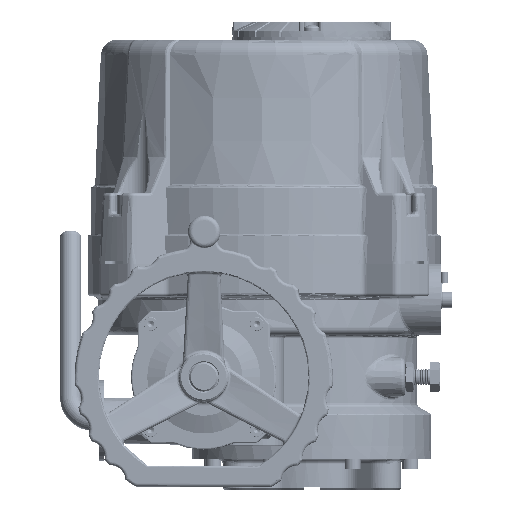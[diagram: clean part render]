
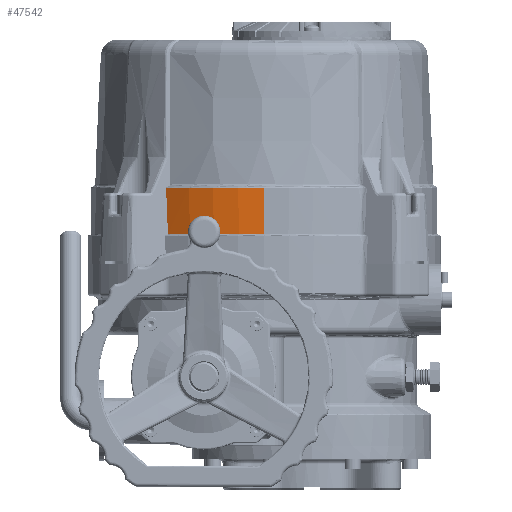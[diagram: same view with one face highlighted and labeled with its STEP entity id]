
A CAD part, front view. The second image highlights one B-rep face of the part: STEP entity #47542.
In plain terms, the highlighted cylindrical face has radius 107.5 mm (diameter 215 mm), a partial arc.
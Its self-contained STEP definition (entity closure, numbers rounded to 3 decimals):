
#47530 = PLANE('',#47531);
#47531 = AXIS2_PLACEMENT_3D('',#47532,#47533,#47534);
#47532 = CARTESIAN_POINT('',(-70.68,-203.884,
    -34.));
#47533 = DIRECTION('',(0.5,-0.865,0.044
    ));
#47534 = DIRECTION('',(0.866,0.5,0.
    ));
#47542 = ADVANCED_FACE('',(#47543),#47558,.T.);
#47543 = FACE_BOUND('',#47544,.T.);
#47544 = EDGE_LOOP('',(#47545,#47581,#47609,#47638));
#47545 = ORIENTED_EDGE('',*,*,#47546,.T.);
#47546 = EDGE_CURVE('',#47547,#47549,#47551,.T.);
#47547 = VERTEX_POINT('',#47548);
#47548 = CARTESIAN_POINT('',(-48.205,-189.976,
    -15.5));
#47549 = VERTEX_POINT('',#47550);
#47550 = CARTESIAN_POINT('',(11.447,-208.044,
    -15.5));
#47551 = SURFACE_CURVE('',#47552,(#47557,#47569),.PCURVE_S1.);
#47552 = CIRCLE('',#47553,107.5);
#47553 = AXIS2_PLACEMENT_3D('',#47554,#47555,#47556);
#47554 = CARTESIAN_POINT('',(11.447,-100.544,
    -15.5));
#47555 = DIRECTION('',(0.,0.,1.));
#47556 = DIRECTION('',(0.,1.,0.));
#47557 = PCURVE('',#47558,#47563);
#47558 = CYLINDRICAL_SURFACE('',#47559,107.5);
#47559 = AXIS2_PLACEMENT_3D('',#47560,#47561,#47562);
#47560 = CARTESIAN_POINT('',(11.447,-100.544,
    174.842));
#47561 = DIRECTION('',(0.,0.,1.));
#47562 = DIRECTION('',(0.,-1.,0.));
#47563 = DEFINITIONAL_REPRESENTATION('',(#47564),#47568);
#47564 = LINE('',#47565,#47566);
#47565 = CARTESIAN_POINT('',(3.142,-190.342));
#47566 = VECTOR('',#47567,1.);
#47567 = DIRECTION('',(1.,0.));
#47568 = ( GEOMETRIC_REPRESENTATION_CONTEXT(2) 
PARAMETRIC_REPRESENTATION_CONTEXT() REPRESENTATION_CONTEXT('2D SPACE',''
  ) );
#47569 = PCURVE('',#47570,#47575);
#47570 = TOROIDAL_SURFACE('',#47571,108.,0.5);
#47571 = AXIS2_PLACEMENT_3D('',#47572,#47573,#47574);
#47572 = CARTESIAN_POINT('',(11.447,-100.544,
    -15.5));
#47573 = DIRECTION('',(0.,0.,-1.));
#47574 = DIRECTION('',(0.,1.,0.));
#47575 = DEFINITIONAL_REPRESENTATION('',(#47576),#47580);
#47576 = LINE('',#47577,#47578);
#47577 = CARTESIAN_POINT('',(6.283,3.142));
#47578 = VECTOR('',#47579,1.);
#47579 = DIRECTION('',(-1.,0.));
#47580 = ( GEOMETRIC_REPRESENTATION_CONTEXT(2) 
PARAMETRIC_REPRESENTATION_CONTEXT() REPRESENTATION_CONTEXT('2D SPACE',''
  ) );
#47581 = ORIENTED_EDGE('',*,*,#47582,.T.);
#47582 = EDGE_CURVE('',#47549,#47583,#47585,.T.);
#47583 = VERTEX_POINT('',#47584);
#47584 = CARTESIAN_POINT('',(11.447,-208.044,
    13.));
#47585 = SURFACE_CURVE('',#47586,(#47590,#47597),.PCURVE_S1.);
#47586 = LINE('',#47587,#47588);
#47587 = CARTESIAN_POINT('',(11.447,-208.044,
    174.842));
#47588 = VECTOR('',#47589,1.);
#47589 = DIRECTION('',(0.,0.,1.));
#47590 = PCURVE('',#47558,#47591);
#47591 = DEFINITIONAL_REPRESENTATION('',(#47592),#47596);
#47592 = LINE('',#47593,#47594);
#47593 = CARTESIAN_POINT('',(6.283,0.));
#47594 = VECTOR('',#47595,1.);
#47595 = DIRECTION('',(0.,1.));
#47596 = ( GEOMETRIC_REPRESENTATION_CONTEXT(2) 
PARAMETRIC_REPRESENTATION_CONTEXT() REPRESENTATION_CONTEXT('2D SPACE',''
  ) );
#47597 = PCURVE('',#47598,#47603);
#47598 = CYLINDRICAL_SURFACE('',#47599,107.5);
#47599 = AXIS2_PLACEMENT_3D('',#47600,#47601,#47602);
#47600 = CARTESIAN_POINT('',(11.447,-100.544,
    174.842));
#47601 = DIRECTION('',(0.,0.,1.));
#47602 = DIRECTION('',(0.,-1.,0.));
#47603 = DEFINITIONAL_REPRESENTATION('',(#47604),#47608);
#47604 = LINE('',#47605,#47606);
#47605 = CARTESIAN_POINT('',(0.,0.));
#47606 = VECTOR('',#47607,1.);
#47607 = DIRECTION('',(0.,1.));
#47608 = ( GEOMETRIC_REPRESENTATION_CONTEXT(2) 
PARAMETRIC_REPRESENTATION_CONTEXT() REPRESENTATION_CONTEXT('2D SPACE',''
  ) );
#47609 = ORIENTED_EDGE('',*,*,#47610,.T.);
#47610 = EDGE_CURVE('',#47583,#47611,#47613,.T.);
#47611 = VERTEX_POINT('',#47612);
#47612 = CARTESIAN_POINT('',(-49.351,-189.2,
    13.));
#47613 = SURFACE_CURVE('',#47614,(#47619,#47626),.PCURVE_S1.);
#47614 = CIRCLE('',#47615,107.5);
#47615 = AXIS2_PLACEMENT_3D('',#47616,#47617,#47618);
#47616 = CARTESIAN_POINT('',(11.447,-100.544,
    13.));
#47617 = DIRECTION('',(0.,0.,-1.));
#47618 = DIRECTION('',(0.,1.,0.));
#47619 = PCURVE('',#47558,#47620);
#47620 = DEFINITIONAL_REPRESENTATION('',(#47621),#47625);
#47621 = LINE('',#47622,#47623);
#47622 = CARTESIAN_POINT('',(9.425,-161.842));
#47623 = VECTOR('',#47624,1.);
#47624 = DIRECTION('',(-1.,0.));
#47625 = ( GEOMETRIC_REPRESENTATION_CONTEXT(2) 
PARAMETRIC_REPRESENTATION_CONTEXT() REPRESENTATION_CONTEXT('2D SPACE',''
  ) );
#47626 = PCURVE('',#47627,#47632);
#47627 = TOROIDAL_SURFACE('',#47628,106.5,1.);
#47628 = AXIS2_PLACEMENT_3D('',#47629,#47630,#47631);
#47629 = CARTESIAN_POINT('',(11.447,-100.544,
    13.));
#47630 = DIRECTION('',(0.,0.,-1.));
#47631 = DIRECTION('',(0.,1.,0.));
#47632 = DEFINITIONAL_REPRESENTATION('',(#47633),#47637);
#47633 = LINE('',#47634,#47635);
#47634 = CARTESIAN_POINT('',(0.,6.283));
#47635 = VECTOR('',#47636,1.);
#47636 = DIRECTION('',(1.,0.));
#47637 = ( GEOMETRIC_REPRESENTATION_CONTEXT(2) 
PARAMETRIC_REPRESENTATION_CONTEXT() REPRESENTATION_CONTEXT('2D SPACE',''
  ) );
#47638 = ORIENTED_EDGE('',*,*,#47639,.T.);
#47639 = EDGE_CURVE('',#47611,#47547,#47640,.T.);
#47640 = SURFACE_CURVE('',#47641,(#47646,#47675),.PCURVE_S1.);
#47641 = ( BOUNDED_CURVE() B_SPLINE_CURVE(3,(#47642,#47643,#47644,#47645
),.UNSPECIFIED.,.F.,.F.) B_SPLINE_CURVE_WITH_KNOTS((4,4),(2.017
,2.03),.PIECEWISE_BEZIER_KNOTS.) CURVE() 
GEOMETRIC_REPRESENTATION_ITEM() RATIONAL_B_SPLINE_CURVE((1.,
1.,1.,1.)) REPRESENTATION_ITEM('') );
#47642 = CARTESIAN_POINT('',(-49.351,-189.2,
    13.));
#47643 = CARTESIAN_POINT('',(-48.971,-189.461,
    3.47));
#47644 = CARTESIAN_POINT('',(-48.589,-189.72,
    -6.03));
#47645 = CARTESIAN_POINT('',(-48.205,-189.976,
    -15.5));
#47646 = PCURVE('',#47558,#47647);
#47647 = DEFINITIONAL_REPRESENTATION('',(#47648),#47674);
#47648 = B_SPLINE_CURVE_WITH_KNOTS('',3,(#47649,#47650,#47651,#47652,
    #47653,#47654,#47655,#47656,#47657,#47658,#47659,#47660,#47661,
    #47662,#47663,#47664,#47665,#47666,#47667,#47668,#47669,#47670,
    #47671,#47672,#47673),.UNSPECIFIED.,.F.,.F.,(4,1,1,1,1,1,1,1,1,1,1,1
    ,1,1,1,1,1,1,1,1,1,1,4),(2.017,2.017,
    2.018,2.019,2.019,2.02,
    2.02,2.021,2.022,2.022,
    2.023,2.023,2.024,2.024,
    2.025,2.026,2.026,2.027,
    2.027,2.028,2.029,2.029,
    2.03),.QUASI_UNIFORM_KNOTS.);
#47649 = CARTESIAN_POINT('',(5.682,-161.842));
#47650 = CARTESIAN_POINT('',(5.682,-162.275));
#47651 = CARTESIAN_POINT('',(5.683,-163.141));
#47652 = CARTESIAN_POINT('',(5.683,-164.44));
#47653 = CARTESIAN_POINT('',(5.684,-165.739));
#47654 = CARTESIAN_POINT('',(5.684,-167.037));
#47655 = CARTESIAN_POINT('',(5.685,-168.335));
#47656 = CARTESIAN_POINT('',(5.686,-169.632));
#47657 = CARTESIAN_POINT('',(5.686,-170.93));
#47658 = CARTESIAN_POINT('',(5.687,-172.226));
#47659 = CARTESIAN_POINT('',(5.687,-173.523));
#47660 = CARTESIAN_POINT('',(5.688,-174.819));
#47661 = CARTESIAN_POINT('',(5.689,-176.114));
#47662 = CARTESIAN_POINT('',(5.689,-177.41));
#47663 = CARTESIAN_POINT('',(5.69,-178.705));
#47664 = CARTESIAN_POINT('',(5.69,-179.999));
#47665 = CARTESIAN_POINT('',(5.691,-181.293));
#47666 = CARTESIAN_POINT('',(5.691,-182.587));
#47667 = CARTESIAN_POINT('',(5.692,-183.881));
#47668 = CARTESIAN_POINT('',(5.693,-185.174));
#47669 = CARTESIAN_POINT('',(5.693,-186.466));
#47670 = CARTESIAN_POINT('',(5.694,-187.759));
#47671 = CARTESIAN_POINT('',(5.694,-189.051));
#47672 = CARTESIAN_POINT('',(5.695,-189.912));
#47673 = CARTESIAN_POINT('',(5.695,-190.342));
#47674 = ( GEOMETRIC_REPRESENTATION_CONTEXT(2) 
PARAMETRIC_REPRESENTATION_CONTEXT() REPRESENTATION_CONTEXT('2D SPACE',''
  ) );
#47675 = PCURVE('',#47530,#47676);
#47676 = DEFINITIONAL_REPRESENTATION('',(#47677),#47682);
#47677 = ( BOUNDED_CURVE() B_SPLINE_CURVE(3,(#47678,#47679,#47680,#47681
),.UNSPECIFIED.,.F.,.F.) B_SPLINE_CURVE_WITH_KNOTS((4,4),(2.017
,2.03),.PIECEWISE_BEZIER_KNOTS.) CURVE() 
GEOMETRIC_REPRESENTATION_ITEM() RATIONAL_B_SPLINE_CURVE((1.,
1.,1.,1.)) REPRESENTATION_ITEM('') );
#47678 = CARTESIAN_POINT('',(25.814,47.045));
#47679 = CARTESIAN_POINT('',(26.013,37.506));
#47680 = CARTESIAN_POINT('',(26.214,27.997));
#47681 = CARTESIAN_POINT('',(26.419,18.518));
#47682 = ( GEOMETRIC_REPRESENTATION_CONTEXT(2) 
PARAMETRIC_REPRESENTATION_CONTEXT() REPRESENTATION_CONTEXT('2D SPACE',''
  ) );
